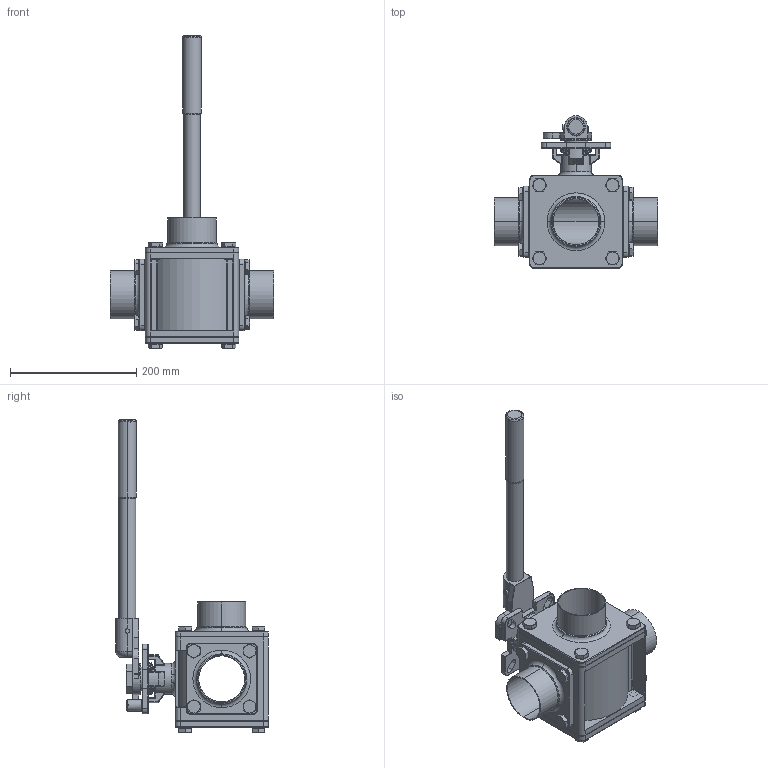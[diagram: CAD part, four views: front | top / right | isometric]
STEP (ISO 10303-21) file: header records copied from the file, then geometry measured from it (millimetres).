
FILE_DESCRIPTION (( 'STEP AP203' ), '1' );
FILE_NAME ('E93WWW-63.0-T.STEP', '2019-07-02T02:23:30', ( '' ), ( '' ), 'SwSTEP 2.0', 'SolidWorks 2014', '' );
FILE_SCHEMA (( 'CONFIG_CONTROL_DESIGN' ));
Length unit declared in the file: millimetre
Products named in the file (27): 13.STEM3.0-4.0; 20.SEAT BACK3.0; 7.O-RING3.0-4.0; 2.3WAY-CAP-W-3.0B; 5.GASKET3.0; 9.RING3.0-4.0; 14.HANDLE3.0-4.0-2; 18.THINNER NUT3.0-4.0; 22.SEAT-L-3.0; 14.HANDLE3.0-4.0-1; 17.LOCKING TAB3.0-4.0; 8.STEM PACKING3.0-4.0; E93WWW-63.0-T; 11.STOP PIN3.0-4.0; 1.3WAY-BODY3.0; 3.3WAY-BALL-3.0-T; 12.3WAY-NUT3.0-4.0; 10.BEVEL WASHER3.0-4.0; 16.BOLT3.0; 14.HANDLE2.5-4.0-3; 4.SEAT1-3.0; 19.3WAY-CAP3.0; 15.SPRING WASHER3.0; 2.3WAY-CAP-W-3.0S; 22.SEAT-R-3.0; 21.PLAIN WASHER3.0-4.0; 6.THRUST WASHER3.0-4.0
Assembly tree (60 placements, depth 2):
  E93WWW-63.0-T
    1.3WAY-BODY3.0
    13.STEM3.0-4.0
    6.THRUST WASHER3.0-4.0
    7.O-RING3.0-4.0
    4.SEAT1-3.0  x2
    5.GASKET3.0  x2
    22.SEAT-L-3.0
    22.SEAT-R-3.0
    20.SEAT BACK3.0
    19.3WAY-CAP3.0
    16.BOLT3.0  x16
    15.SPRING WASHER3.0  x16
    11.STOP PIN3.0-4.0
    8.STEM PACKING3.0-4.0
    9.RING3.0-4.0
    10.BEVEL WASHER3.0-4.0  x2
    18.THINNER NUT3.0-4.0
    17.LOCKING TAB3.0-4.0
    21.PLAIN WASHER3.0-4.0
    14.HANDLE3.0-4.0-1
    14.HANDLE3.0-4.0-2
    14.HANDLE2.5-4.0-3
    12.3WAY-NUT3.0-4.0
    3.3WAY-BALL-3.0-T
    2.3WAY-CAP-W-3.0S  x2
    2.3WAY-CAP-W-3.0B
Bounding box: 260 x 242.39 x 495.7 mm (x, y, z)
Volume: 2865976.6 mm3; surface area: 795463.3 mm2
Topology: 61 solids, 61 shells, 1531 faces, 3463 edges, 2055 vertices
Faces by surface type: cylinder 566, plane 415, cone 248, torus 188, sphere 58, bspline 56
Entity records: 37236 total; most frequent: CARTESIAN_POINT 8741, DIRECTION 5673, ORIENTED_EDGE 4904, EDGE_CURVE 2452, AXIS2_PLACEMENT_3D 2397, VERTEX_POINT 1459, CIRCLE 1324, EDGE_LOOP 1181
